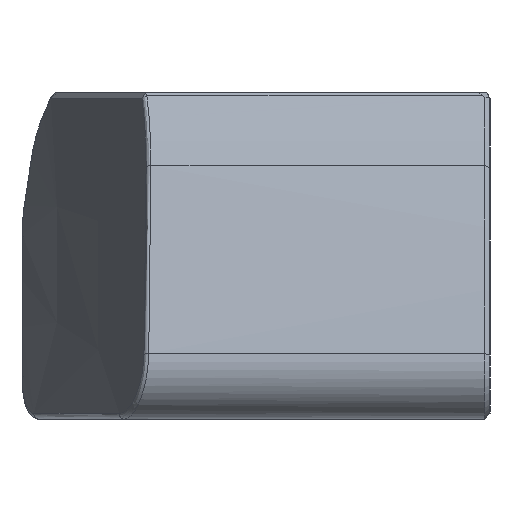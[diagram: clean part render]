
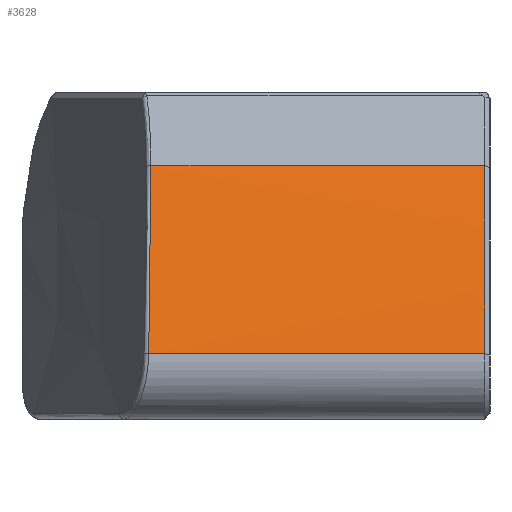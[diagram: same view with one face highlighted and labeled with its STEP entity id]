
A CAD part, left-side view. The second image highlights one B-rep face of the part: STEP entity #3628.
In plain terms, the highlighted cylindrical face has radius 98 mm (diameter 196 mm), a partial arc.
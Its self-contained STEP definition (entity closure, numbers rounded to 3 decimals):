
#437 = CIRCLE ( 'NONE', #3929, 98. ) ;
#640 = CARTESIAN_POINT ( 'NONE',  ( -94.752, -4.6, 25.021 ) ) ;
#659 = CARTESIAN_POINT ( 'NONE',  ( -89.717, 20.99, 39.432 ) ) ;
#665 = CARTESIAN_POINT ( 'NONE',  ( -89.717, -4.6, 39.432 ) ) ;
#1310 = VERTEX_POINT ( 'NONE', #640 ) ;
#1329 = VERTEX_POINT ( 'NONE', #659 ) ;
#1335 = VERTEX_POINT ( 'NONE', #665 ) ;
#2346 = CARTESIAN_POINT ( 'NONE',  ( -89.717, 20.99, 39.432 ) ) ;
#2350 = CARTESIAN_POINT ( 'NONE',  ( -91.771, 21.017, 34.76 ) ) ;
#2351 = CARTESIAN_POINT ( 'NONE',  ( -93.449, 21.071, 29.956 ) ) ;
#2352 = CARTESIAN_POINT ( 'NONE',  ( -94.752, 21.153, 25.021 ) ) ;
#2458 = CARTESIAN_POINT ( 'NONE',  ( 0., -4.6, 0. ) ) ;
#2459 = LINE ( 'NONE', #2460, #3933 ) ;
#2460 = CARTESIAN_POINT ( 'NONE',  ( -89.717, -5., 39.432 ) ) ;
#2461 = DIRECTION ( 'NONE',  ( 0., 1., 0. ) ) ;
#2465 = LINE ( 'NONE', #2466, #3936 ) ;
#2466 = CARTESIAN_POINT ( 'NONE',  ( -94.752, -5., 25.021 ) ) ;
#2467 = DIRECTION ( 'NONE',  ( 0., -1., 0. ) ) ;
#2468 = DIRECTION ( 'NONE',  ( 0., 1., 0. ) ) ;
#2469 = DIRECTION ( 'NONE',  ( 0., 0., 1. ) ) ;
#2648 = CARTESIAN_POINT ( 'NONE',  ( 0., -5., 0. ) ) ;
#2649 = DIRECTION ( 'NONE',  ( 0., 1., 0. ) ) ;
#2650 = DIRECTION ( 'NONE',  ( 0., 0., 1. ) ) ;
#3519 = EDGE_CURVE ( 'NONE', #1329, #5759, #6523, .T. ) ;
#3528 = EDGE_CURVE ( 'NONE', #1335, #1329, #2459, .T. ) ;
#3530 = EDGE_CURVE ( 'NONE', #5759, #1310, #2465, .T. ) ;
#3531 = EDGE_CURVE ( 'NONE', #1310, #1335, #437, .T. ) ;
#3628 = ADVANCED_FACE ( 'NONE', ( #3885 ), #3887, .T. ) ;
#3883 = AXIS2_PLACEMENT_3D ( 'NONE', #2648, #2649, #2650 ) ;
#3885 = FACE_OUTER_BOUND ( 'NONE', #5273, .T. ) ;
#3887 = CYLINDRICAL_SURFACE ( 'NONE', #3883, 98. ) ;
#3929 = AXIS2_PLACEMENT_3D ( 'NONE', #2458, #2468, #2469 ) ;
#3933 = VECTOR ( 'NONE', #2461, 1000. ) ;
#3936 = VECTOR ( 'NONE', #2467, 1000. ) ;
#4998 = CARTESIAN_POINT ( 'NONE',  ( -94.752, 21.153, 25.021 ) ) ;
#5273 = EDGE_LOOP ( 'NONE', ( #6384, #6371, #6372, #6370 ) ) ;
#5759 = VERTEX_POINT ( 'NONE', #4998 ) ;
#6370 = ORIENTED_EDGE ( 'NONE', *, *, #3531, .T. ) ;
#6371 = ORIENTED_EDGE ( 'NONE', *, *, #3519, .T. ) ;
#6372 = ORIENTED_EDGE ( 'NONE', *, *, #3530, .T. ) ;
#6384 = ORIENTED_EDGE ( 'NONE', *, *, #3528, .T. ) ;
#6523 = B_SPLINE_CURVE_WITH_KNOTS ( 'NONE', 3,
 ( #2346, #2350, #2351, #2352 ),
 .UNSPECIFIED., .F., .F.,
 ( 4, 4 ),
 ( 0., 0.015 ),
 .UNSPECIFIED. ) ;
